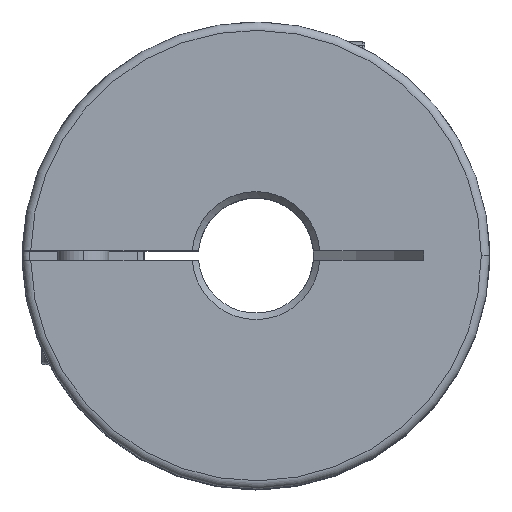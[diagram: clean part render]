
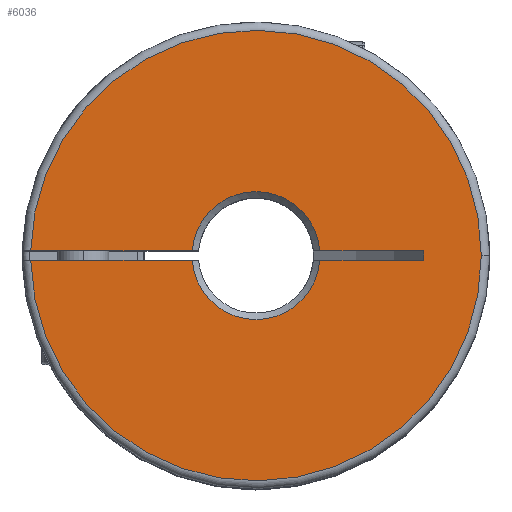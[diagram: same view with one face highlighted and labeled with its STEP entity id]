
A CAD part, top view. The second image highlights one B-rep face of the part: STEP entity #6036.
In plain terms, the highlighted planar face has unit normal (0, 0, 1).
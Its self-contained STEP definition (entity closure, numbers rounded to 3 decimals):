
#299 = ORIENTED_EDGE ( 'NONE', *, *, #5944, .T. ) ;
#307 = ORIENTED_EDGE ( 'NONE', *, *, #5940, .F. ) ;
#326 = ORIENTED_EDGE ( 'NONE', *, *, #5947, .T. ) ;
#328 = ORIENTED_EDGE ( 'NONE', *, *, #5945, .T. ) ;
#387 = ORIENTED_EDGE ( 'NONE', *, *, #5946, .T. ) ;
#510 = ORIENTED_EDGE ( 'NONE', *, *, #5941, .T. ) ;
#571 = ORIENTED_EDGE ( 'NONE', *, *, #1000, .T. ) ;
#574 = ORIENTED_EDGE ( 'NONE', *, *, #5942, .F. ) ;
#579 = ORIENTED_EDGE ( 'NONE', *, *, #5943, .T. ) ;
#1000 = EDGE_CURVE ( 'NONE', #2725, #2778, #1008, .T. ) ;
#1008 = CIRCLE ( 'NONE', #4318, 35.2 ) ;
#1420 = LINE ( 'NONE', #3631, #1926 ) ;
#1421 = CIRCLE ( 'NONE', #4483, 10. ) ;
#1926 = VECTOR ( 'NONE', #3632, 1000. ) ;
#2216 = LINE ( 'NONE', #3636, #2217 ) ;
#2217 = VECTOR ( 'NONE', #3637, 1000. ) ;
#2218 = LINE ( 'NONE', #3648, #2222 ) ;
#2219 = LINE ( 'NONE', #3646, #2220 ) ;
#2220 = VECTOR ( 'NONE', #3647, 1000. ) ;
#2221 = CIRCLE ( 'NONE', #4486, 10. ) ;
#2222 = VECTOR ( 'NONE', #3649, 1000. ) ;
#2223 = LINE ( 'NONE', #3641, #2225 ) ;
#2224 = CIRCLE ( 'NONE', #4488, 35.2 ) ;
#2225 = VECTOR ( 'NONE', #3642, 1000. ) ;
#2358 = FACE_OUTER_BOUND ( 'NONE', #3430, .T. ) ;
#2725 = VERTEX_POINT ( 'NONE', #4302 ) ;
#2772 = VERTEX_POINT ( 'NONE', #4382 ) ;
#2778 = VERTEX_POINT ( 'NONE', #4391 ) ;
#2781 = VERTEX_POINT ( 'NONE', #4396 ) ;
#2834 = VERTEX_POINT ( 'NONE', #4475 ) ;
#2848 = VERTEX_POINT ( 'NONE', #4499 ) ;
#2853 = VERTEX_POINT ( 'NONE', #4508 ) ;
#2884 = VERTEX_POINT ( 'NONE', #4552 ) ;
#2893 = VERTEX_POINT ( 'NONE', #4564 ) ;
#3430 = EDGE_LOOP ( 'NONE', ( #307, #510, #574, #579, #299, #328, #387, #326, #571 ) ) ;
#3631 = CARTESIAN_POINT ( 'NONE',  ( 26.2, 0.75, 37.75 ) ) ;
#3632 = DIRECTION ( 'NONE',  ( -1., 0., 0. ) ) ;
#3636 = CARTESIAN_POINT ( 'NONE',  ( 26.2, 0.75, 37.75 ) ) ;
#3637 = DIRECTION ( 'NONE',  ( -1., 0., 0. ) ) ;
#3641 = CARTESIAN_POINT ( 'NONE',  ( 26.2, -0.75, 37.75 ) ) ;
#3642 = DIRECTION ( 'NONE',  ( -1., 0., 0. ) ) ;
#3643 = CARTESIAN_POINT ( 'NONE',  ( 0., 0., 37.75 ) ) ;
#3644 = DIRECTION ( 'NONE',  ( 0., 0., -1. ) ) ;
#3645 = DIRECTION ( 'NONE',  ( 0., 1., 0. ) ) ;
#3646 = CARTESIAN_POINT ( 'NONE',  ( 26.2, 0.75, 37.75 ) ) ;
#3647 = DIRECTION ( 'NONE',  ( 0., -1., 0. ) ) ;
#3648 = CARTESIAN_POINT ( 'NONE',  ( 26.2, -0.75, 37.75 ) ) ;
#3649 = DIRECTION ( 'NONE',  ( -1., 0., 0. ) ) ;
#3651 = CARTESIAN_POINT ( 'NONE',  ( 0., 0., 37.75 ) ) ;
#3652 = DIRECTION ( 'NONE',  ( 0., 0., -1. ) ) ;
#3653 = DIRECTION ( 'NONE',  ( 0., 1., 0. ) ) ;
#3655 = CARTESIAN_POINT ( 'NONE',  ( 0., 0., 37.75 ) ) ;
#3656 = DIRECTION ( 'NONE',  ( 0., 0., 1. ) ) ;
#3657 = DIRECTION ( 'NONE',  ( 1., 0., 0. ) ) ;
#3953 = CARTESIAN_POINT ( 'NONE',  ( 0., 0., 37.75 ) ) ;
#3954 = PLANE ( 'NONE',  #4709 ) ;
#3957 = DIRECTION ( 'NONE',  ( 0., 0., -1. ) ) ;
#3958 = DIRECTION ( 'NONE',  ( 1., 0., 0. ) ) ;
#4302 = CARTESIAN_POINT ( 'NONE',  ( 35.2, 0., 37.75 ) ) ;
#4318 = AXIS2_PLACEMENT_3D ( 'NONE', #7417, #7416, #7415 ) ;
#4382 = CARTESIAN_POINT ( 'NONE',  ( 26.2, -0.75, 37.75 ) ) ;
#4391 = CARTESIAN_POINT ( 'NONE',  ( -35.192, 0.75, 37.75 ) ) ;
#4396 = CARTESIAN_POINT ( 'NONE',  ( -35.192, -0.75, 37.75 ) ) ;
#4475 = CARTESIAN_POINT ( 'NONE',  ( 26.2, 0.75, 37.75 ) ) ;
#4483 = AXIS2_PLACEMENT_3D ( 'NONE', #3643, #3644, #3645 ) ;
#4486 = AXIS2_PLACEMENT_3D ( 'NONE', #3651, #3652, #3653 ) ;
#4488 = AXIS2_PLACEMENT_3D ( 'NONE', #3655, #3656, #3657 ) ;
#4499 = CARTESIAN_POINT ( 'NONE',  ( 9.972, -0.75, 37.75 ) ) ;
#4508 = CARTESIAN_POINT ( 'NONE',  ( -9.972, 0.75, 37.75 ) ) ;
#4552 = CARTESIAN_POINT ( 'NONE',  ( -9.972, -0.75, 37.75 ) ) ;
#4564 = CARTESIAN_POINT ( 'NONE',  ( 9.972, 0.75, 37.75 ) ) ;
#4709 = AXIS2_PLACEMENT_3D ( 'NONE', #3953, #3957, #3958 ) ;
#5940 = EDGE_CURVE ( 'NONE', #2853, #2778, #1420, .T. ) ;
#5941 = EDGE_CURVE ( 'NONE', #2853, #2893, #1421, .T. ) ;
#5942 = EDGE_CURVE ( 'NONE', #2834, #2893, #2216, .T. ) ;
#5943 = EDGE_CURVE ( 'NONE', #2834, #2772, #2219, .T. ) ;
#5944 = EDGE_CURVE ( 'NONE', #2772, #2848, #2218, .T. ) ;
#5945 = EDGE_CURVE ( 'NONE', #2848, #2884, #2221, .T. ) ;
#5946 = EDGE_CURVE ( 'NONE', #2884, #2781, #2223, .T. ) ;
#5947 = EDGE_CURVE ( 'NONE', #2781, #2725, #2224, .T. ) ;
#6036 = ADVANCED_FACE ( 'NONE', ( #2358 ), #3954, .F. ) ;
#7415 = DIRECTION ( 'NONE',  ( 1., 0., 0. ) ) ;
#7416 = DIRECTION ( 'NONE',  ( 0., 0., 1. ) ) ;
#7417 = CARTESIAN_POINT ( 'NONE',  ( 0., 0., 37.75 ) ) ;
